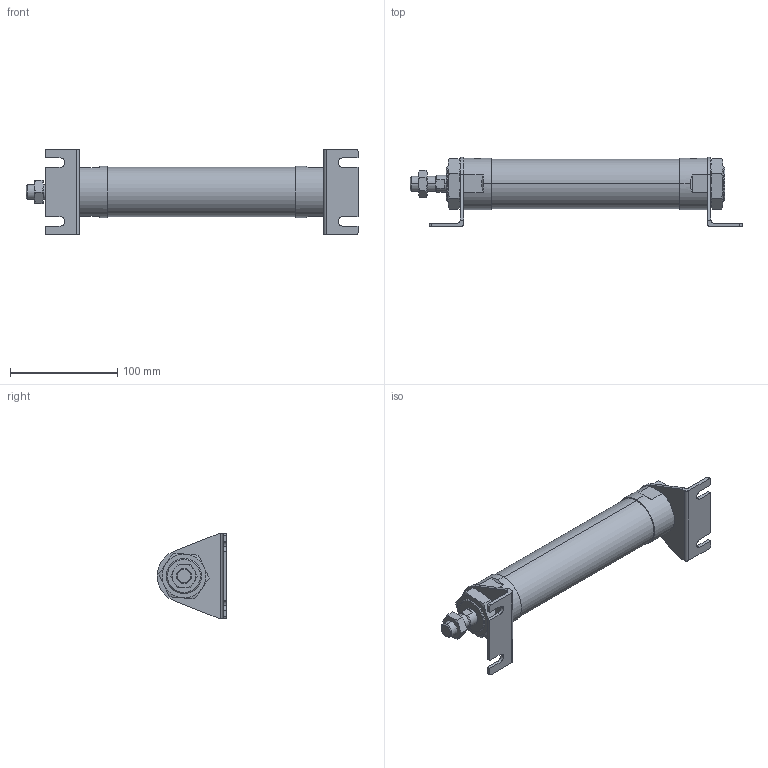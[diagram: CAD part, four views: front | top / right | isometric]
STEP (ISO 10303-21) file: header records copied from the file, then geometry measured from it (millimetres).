
FILE_DESCRIPTION (( 'STEP AP203' ), '1' );
FILE_NAME ('J#2-40-125-L.STEP', '2016-03-10T01:06:35', ( '' ), ( '' ), 'SwSTEP 2.0', 'SolidWorks 2014', '' );
FILE_SCHEMA (( 'CONFIG_CONTROL_DESIGN' ));
Length unit declared in the file: millimetre
Products named in the file (5): J#2-40-125-L; J#2-40-L; J#2-40-125
Assembly tree (6 placements, depth 2):
  J#2-40-125-L
    J#2-40-125
    (unnamed)
    (unnamed)  x2
    J#2-40-L  x2
Bounding box: 310.2 x 65 x 80 mm (x, y, z)
Volume: 464541.1 mm3; surface area: 74650.6 mm2
Topology: 6 solids, 6 shells, 170 faces, 404 edges, 249 vertices
Faces by surface type: plane 71, cylinder 48, torus 36, cone 15
Entity records: 4463 total; most frequent: CARTESIAN_POINT 1173, DIRECTION 578, ORIENTED_EDGE 558, EDGE_CURVE 279, AXIS2_PLACEMENT_3D 232, VERTEX_POINT 173, EDGE_LOOP 134, ADVANCED_FACE 121
